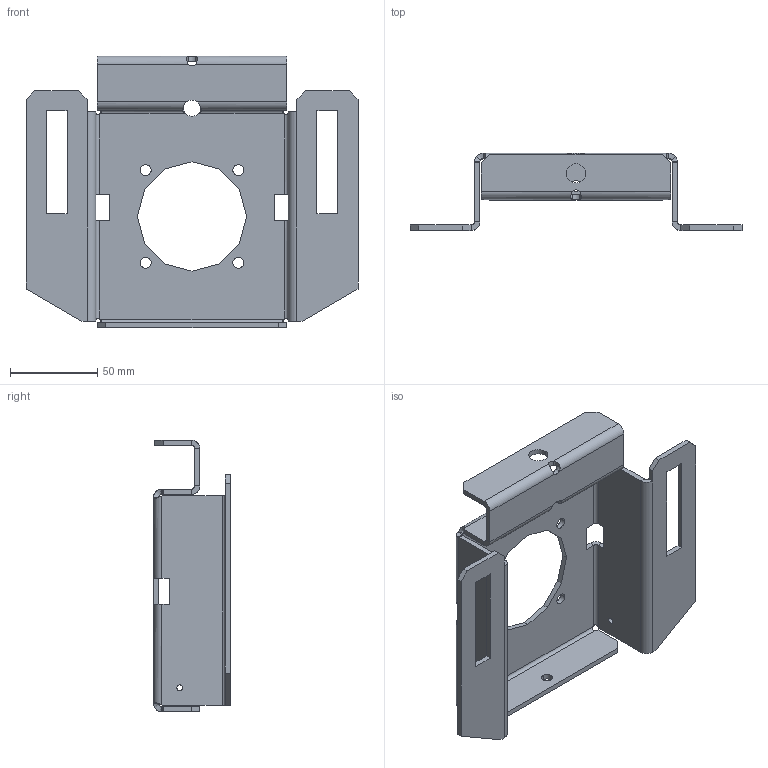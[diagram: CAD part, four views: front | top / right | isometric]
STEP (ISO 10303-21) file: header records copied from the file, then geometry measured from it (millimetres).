
FILE_DESCRIPTION (( 'STEP AP203' ), '1' );
FILE_NAME ('庋.803-5-22.0.0.1.STEP', '2021-03-06T16:36:59', ( '' ), ( '' ), 'SwSTEP 2.0', 'SolidWorks 2016', '' );
FILE_SCHEMA (( 'CONFIG_CONTROL_DESIGN' ));
Length unit declared in the file: millimetre
Products named in the file (1): 庋.803-5-22.0.0.1
Bounding box: 190 x 44 x 155.5 mm (x, y, z)
Volume: 112363 mm3; surface area: 80408.4 mm2
Topology: 1 solids, 1 shells, 184 faces, 466 edges, 276 vertices
Faces by surface type: plane 112, cylinder 54, bspline 18
Entity records: 6187 total; most frequent: CARTESIAN_POINT 1801, ORIENTED_EDGE 932, DIRECTION 820, EDGE_CURVE 466, VECTOR 310, LINE 310, VERTEX_POINT 276, AXIS2_PLACEMENT_3D 255
